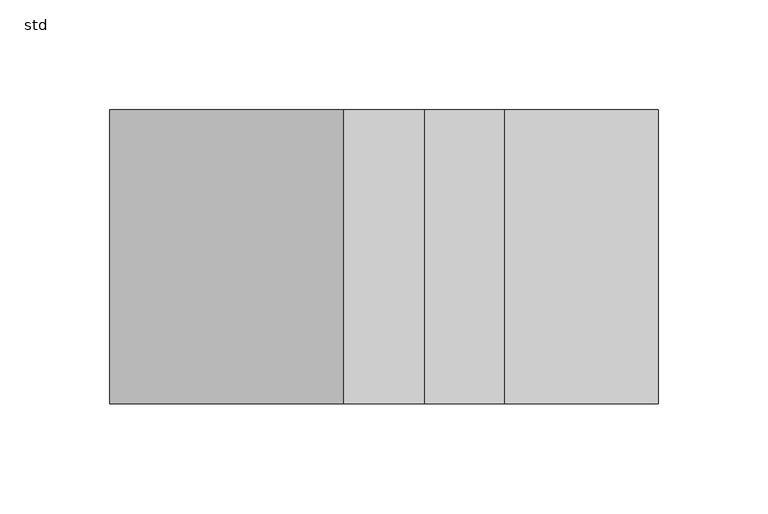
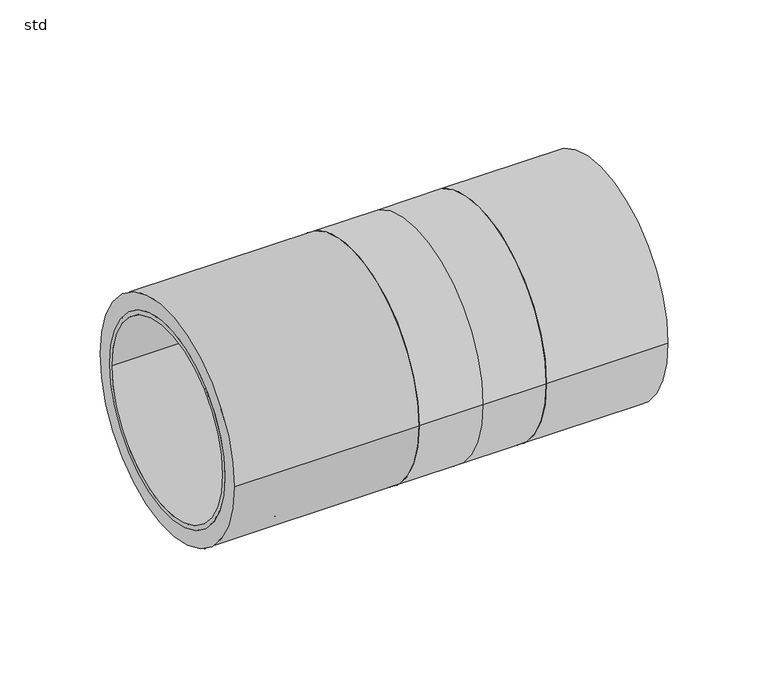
"""IFC4 building model written with IfcOpenShell, lengths in millimetres: pipe fitting geometry, PIF_ST_UN_GM-X compound pipe connection piece (multiport)_ACO : std."""

from ifc_helpers import new_model, si_unit, point, frame, origin, origin_2d, place, context, project, spatial, polyline, circle_curve, trimmed, segment, composite_curve, outline, extrude, source, transform, mapped, element, save
from ifc_brep_helpers import plane_surface, cylinder_surface, revolved_surface, advanced_brep


def std_6e98df58(model_context):
    return source(origin(), model_context, "Body", "SolidModel", [
        extrude(outline(composite_curve([segment(trimmed(circle_curve(origin_2d(), 67.0), [point((-67.0, 0.0))], [point((67.0, 0.0))], False, "CARTESIAN"), True, "CONTINUOUS"), segment(trimmed(circle_curve(origin_2d(), 67.0), [point((67.0, 0.0))], [point((-67.0, 0.0))], False, "CARTESIAN"), True, "CONTINUOUS")], self_intersect=False), holes=[composite_curve([segment(trimmed(circle_curve(origin_2d(), 53.5), [point((-53.5, 0.0))], [point((53.5, 0.0))], True, "CARTESIAN"), True, "CONTINUOUS"), segment(trimmed(circle_curve(origin_2d(), 53.5), [point((53.5, 0.0))], [point((-53.5, 0.0))], True, "CARTESIAN"), True, "CONTINUOUS")], self_intersect=False)]), frame((110.0, 0.0, 0.0), z_axis=(1.0, 0.0, 0.0), x_axis=(0.0, 1.0, 0.0)), (0.0, 0.0, 1.0), 70.0),
        advanced_brep(
        [(180.0, -53.5, 0.0), (180.0, 53.5, 0.0), (180.0, 51.0, 0.0), (180.0, -51.0, 0.0), (110.0, -53.5, 0.0), (110.0, 53.5, 0.0), (110.0, -51.0, 0.0), (110.0, 51.0, 0.0), (147.0, -53.5, 0.0), (147.0, 53.5, 0.0), (118.3, 53.5, 0.0), (118.3, -53.5, 0.0), (147.0, -59.0, 0.0), (147.0, 59.0, 0.0), (118.3, -59.0, 0.0), (118.3, 59.0, 0.0)],
        [
            (0, 1, circle_curve(frame((180.0, 0.0, 0.0), z_axis=(1.0, 0.0, 0.0), x_axis=(0.0, 1.0, 0.0)), 53.5)),
            (1, 0, circle_curve(frame((180.0, 0.0, 0.0), z_axis=(1.0, 0.0, 0.0), x_axis=(0.0, 1.0, 0.0)), 53.5)),
            (2, 3, circle_curve(frame((180.0, 0.0, 0.0), z_axis=(-1.0, 0.0, 0.0), x_axis=(0.0, 1.0, 0.0)), 51.0)),
            (3, 2, circle_curve(frame((180.0, 0.0, 0.0), z_axis=(-1.0, 0.0, 0.0), x_axis=(0.0, 1.0, 0.0)), 51.0)),
            (4, 5, circle_curve(frame((110.0, 0.0, 0.0), z_axis=(-1.0, 0.0, 0.0), x_axis=(0.0, 1.0, 0.0)), 53.5)),
            (5, 4, circle_curve(frame((110.0, 0.0, 0.0), z_axis=(-1.0, 0.0, 0.0), x_axis=(0.0, 1.0, 0.0)), 53.5)),
            (6, 7, circle_curve(frame((110.0, 0.0, 0.0), z_axis=(1.0, 0.0, 0.0), x_axis=(0.0, 1.0, 0.0)), 51.0)),
            (7, 6, circle_curve(frame((110.0, 0.0, 0.0), z_axis=(1.0, 0.0, 0.0), x_axis=(0.0, 1.0, 0.0)), 51.0)),
            (0, 8),
            (8, 9, circle_curve(frame((147.0, 0.0, 0.0), z_axis=(1.0, 0.0, 0.0), x_axis=(0.0, 1.0, 0.0)), 53.5)),
            (9, 1),
            (5, 10),
            (10, 11, circle_curve(frame((118.3, 0.0, 0.0), z_axis=(-1.0, 0.0, 0.0), x_axis=(0.0, 1.0, 0.0)), 53.5)),
            (11, 4),
            (9, 8, circle_curve(frame((147.0, 0.0, 0.0), z_axis=(1.0, 0.0, 0.0), x_axis=(0.0, 1.0, 0.0)), 53.5)),
            (11, 10, circle_curve(frame((118.3, 0.0, 0.0), z_axis=(-1.0, 0.0, 0.0), x_axis=(0.0, 1.0, 0.0)), 53.5)),
            (2, 7),
            (6, 3),
            (12, 13, circle_curve(frame((147.0, 0.0, 0.0), z_axis=(1.0, 0.0, 0.0), x_axis=(0.0, 1.0, 0.0)), 59.0)),
            (13, 12, circle_curve(frame((147.0, 0.0, 0.0), z_axis=(1.0, 0.0, 0.0), x_axis=(0.0, 1.0, 0.0)), 59.0)),
            (14, 15, circle_curve(frame((118.3, 0.0, 0.0), z_axis=(-1.0, 0.0, 0.0), x_axis=(0.0, 1.0, 0.0)), 59.0)),
            (15, 14, circle_curve(frame((118.3, 0.0, 0.0), z_axis=(-1.0, 0.0, 0.0), x_axis=(0.0, 1.0, 0.0)), 59.0)),
            (12, 14),
            (15, 13),
        ],
        [
            plane_surface(frame((180.0, 53.5, 0.0), z_axis=(1.0, 0.0, 0.0), x_axis=(0.0, 0.0, 1.0))),
            plane_surface(frame((110.0, 53.5, 0.0), z_axis=(-1.0, 0.0, 0.0), x_axis=(0.0, 0.0, -1.0))),
            cylinder_surface(frame((110.0, 0.0, 0.0), z_axis=(1.0, 0.0, 0.0), x_axis=(0.0, 1.0, 0.0)), 53.5),
            revolved_surface(polyline([(180.0, 51.0, 0.0), (110.0, 51.0, 0.0)]), (110.0, 0.0, 0.0), (1.0, 0.0, 0.0)),
            plane_surface(frame((147.0, 59.0, 0.0), z_axis=(1.0, 0.0, 0.0), x_axis=(0.0, 0.0, 1.0))),
            plane_surface(frame((118.3, 59.0, 0.0), z_axis=(-1.0, 0.0, 0.0), x_axis=(0.0, 0.0, -1.0))),
            cylinder_surface(frame((118.3, 0.0, 0.0), z_axis=(1.0, 0.0, 0.0), x_axis=(0.0, 1.0, 0.0)), 59.0),
        ],
        [
            (0, [[1, 2], [3, 4]]),
            (1, [[5, 6], [7, 8]]),
            (2, [[-1, 9, 10, 11]]),
            (2, [[-6, 12, 13, 14]]),
            (2, [[-2, -11, 15, -9]]),
            (2, [[-5, -14, 16, -12]]),
            (3, [[17, -7, 18, -3]]),
            (3, [[-17, -4, -18, -8]]),
            (4, [[19, 20], [-10, -15]]),
            (5, [[21, 22], [-13, -16]]),
            (6, [[-19, 23, -22, 24]]),
            (6, [[-20, -24, -21, -23]]),
        ],
    ),
        advanced_brep(
        [(-61.7, -63.0, 0.0), (-61.7, 63.0, 0.0), (-33.0, 63.0, 0.0), (-33.0, -63.0, 0.0), (-70.0, 57.5, 0.0), (-70.0, -57.5, 0.0), (-70.0, -55.0, 0.0), (-70.0, 55.0, 0.0), (0.0, 57.5, 0.0), (0.0, -57.5, 0.0), (0.0, 55.0, 0.0), (0.0, -55.0, 0.0), (-61.7, 57.5, 0.0), (-61.7, -57.5, 0.0), (-33.0, -57.5, 0.0), (-33.0, 57.5, 0.0)],
        [
            (0, 1, circle_curve(frame((-61.7, 0.0, 0.0), z_axis=(1.0, 0.0, 0.0), x_axis=(0.0, -1.0, 0.0)), 63.0)),
            (1, 2),
            (2, 3, circle_curve(frame((-33.0, 0.0, 0.0), z_axis=(-1.0, 0.0, 0.0), x_axis=(0.0, -1.0, 0.0)), 63.0)),
            (3, 0),
            (1, 0, circle_curve(frame((-61.7, 0.0, 0.0), z_axis=(1.0, 0.0, 0.0), x_axis=(0.0, -1.0, 0.0)), 63.0)),
            (3, 2, circle_curve(frame((-33.0, 0.0, 0.0), z_axis=(-1.0, 0.0, 0.0), x_axis=(0.0, -1.0, 0.0)), 63.0)),
            (4, 5, circle_curve(frame((-70.0, 0.0, 0.0), z_axis=(-1.0, 0.0, 0.0), x_axis=(0.0, -1.0, 0.0)), 57.5)),
            (5, 4, circle_curve(frame((-70.0, 0.0, 0.0), z_axis=(-1.0, 0.0, 0.0), x_axis=(0.0, -1.0, 0.0)), 57.5)),
            (6, 7, circle_curve(frame((-70.0, 0.0, 0.0), z_axis=(1.0, 0.0, 0.0), x_axis=(0.0, -1.0, 0.0)), 55.0)),
            (7, 6, circle_curve(frame((-70.0, 0.0, 0.0), z_axis=(1.0, 0.0, 0.0), x_axis=(0.0, -1.0, 0.0)), 55.0)),
            (8, 9, circle_curve(frame((0.0, 0.0, 0.0), z_axis=(1.0, 0.0, 0.0), x_axis=(0.0, -1.0, 0.0)), 57.5)),
            (9, 8, circle_curve(frame((0.0, 0.0, 0.0), z_axis=(1.0, 0.0, 0.0), x_axis=(0.0, -1.0, 0.0)), 57.5)),
            (10, 11, circle_curve(frame((0.0, 0.0, 0.0), z_axis=(-1.0, 0.0, 0.0), x_axis=(0.0, -1.0, 0.0)), 55.0)),
            (11, 10, circle_curve(frame((0.0, 0.0, 0.0), z_axis=(-1.0, 0.0, 0.0), x_axis=(0.0, -1.0, 0.0)), 55.0)),
            (4, 12),
            (12, 13, circle_curve(frame((-61.7, 0.0, 0.0), z_axis=(-1.0, 0.0, 0.0), x_axis=(0.0, -1.0, 0.0)), 57.5)),
            (13, 5),
            (9, 14),
            (14, 15, circle_curve(frame((-33.0, 0.0, 0.0), z_axis=(1.0, 0.0, 0.0), x_axis=(0.0, -1.0, 0.0)), 57.5)),
            (15, 8),
            (13, 12, circle_curve(frame((-61.7, 0.0, 0.0), z_axis=(-1.0, 0.0, 0.0), x_axis=(0.0, -1.0, 0.0)), 57.5)),
            (15, 14, circle_curve(frame((-33.0, 0.0, 0.0), z_axis=(1.0, 0.0, 0.0), x_axis=(0.0, -1.0, 0.0)), 57.5)),
            (6, 11),
            (10, 7),
        ],
        [
            cylinder_surface(frame((-33.0, 0.0, 0.0), z_axis=(-1.0, 0.0, 0.0), x_axis=(0.0, -1.0, 0.0)), 63.0),
            plane_surface(frame((-70.0, -57.5, 0.0), z_axis=(-1.0, 0.0, 0.0), x_axis=(0.0, 0.0, 1.0))),
            plane_surface(frame((0.0, -57.5, 0.0), z_axis=(1.0, 0.0, 0.0), x_axis=(0.0, 0.0, -1.0))),
            cylinder_surface(frame((0.0, 0.0, 0.0), z_axis=(-1.0, 0.0, 0.0), x_axis=(0.0, -1.0, 0.0)), 57.5),
            revolved_surface(polyline([(-70.0, -55.0, 0.0), (0.0, -55.0, 0.0)]), (0.0, 0.0, 0.0), (-1.0, 0.0, 0.0)),
            plane_surface(frame((-61.7, -63.0, 0.0), z_axis=(-1.0, 0.0, 0.0), x_axis=(0.0, 0.0, 1.0))),
            plane_surface(frame((-33.0, -63.0, 0.0), z_axis=(1.0, 0.0, 0.0), x_axis=(0.0, 0.0, -1.0))),
        ],
        [
            (0, [[1, 2, 3, 4]]),
            (0, [[5, -4, 6, -2]]),
            (1, [[7, 8], [9, 10]]),
            (2, [[11, 12], [13, 14]]),
            (3, [[-7, 15, 16, 17]]),
            (3, [[-12, 18, 19, 20]]),
            (3, [[-8, -17, 21, -15]]),
            (3, [[-11, -20, 22, -18]]),
            (4, [[23, -13, 24, -9]]),
            (4, [[-23, -10, -24, -14]]),
            (5, [[-1, -5], [-16, -21]]),
            (6, [[-6, -3], [-19, -22]]),
        ],
    ),
        advanced_brep(
        [(36.6666667, -67.0, 0.0), (36.6666667, 67.0, 0.0), (73.3333333, 67.0, 0.0), (73.3333333, -67.0, 0.0), (110.0, 67.0, 0.0), (110.0, -67.0, 0.0)],
        [
            (0, 1, circle_curve(frame((36.6666667, 0.0, 0.0), z_axis=(-1.0, 0.0, 0.0), x_axis=(0.0, 0.0, 1.0)), 67.0)),
            (1, 0, circle_curve(frame((36.6666667, 0.0, 0.0), z_axis=(-1.0, 0.0, 0.0), x_axis=(0.0, 0.0, -1.0)), 67.0)),
            (1, 2),
            (2, 3, circle_curve(frame((73.3333333, 0.0, 0.0), z_axis=(-1.0, 0.0, 0.0), x_axis=(0.0, 0.0, -1.0)), 67.0)),
            (3, 0),
            (3, 2, circle_curve(frame((73.3333333, 0.0, 0.0), z_axis=(-1.0, 0.0, 0.0), x_axis=(0.0, 0.0, 1.0)), 67.0)),
            (4, 5, circle_curve(frame((110.0, 0.0, 0.0), z_axis=(1.0, 0.0, 0.0), x_axis=(0.0, -1.0, 0.0)), 67.0)),
            (5, 4, circle_curve(frame((110.0, 0.0, 0.0), z_axis=(1.0, 0.0, 0.0), x_axis=(0.0, -1.0, 0.0)), 67.0)),
            (4, 2),
            (3, 5),
        ],
        [
            plane_surface(frame((36.6666667, 0.0, 0.0), z_axis=(-1.0, 0.0, 0.0), x_axis=(0.0, 0.0, -1.0))),
            cylinder_surface(frame((36.6666667, 0.0, 0.0), z_axis=(1.0, 0.0, 0.0), x_axis=(0.0, 0.0, -1.0)), 67.0),
            cylinder_surface(frame((36.6666667, 0.0, 0.0), z_axis=(1.0, 0.0, 0.0), x_axis=(0.0, 0.0, 1.0)), 67.0),
            plane_surface(frame((110.0, -67.0, 0.0), z_axis=(1.0, 0.0, 0.0), x_axis=(0.0, 0.0, -1.0))),
            cylinder_surface(frame((73.3333333, 0.0, 0.0), z_axis=(1.0, 0.0, 0.0), x_axis=(0.0, -1.0, 0.0)), 67.0),
        ],
        [
            (0, [[1, 2]]),
            (1, [[-2, 3, 4, 5]]),
            (2, [[-1, -5, 6, -3]]),
            (3, [[7, 8]]),
            (4, [[-7, 9, -6, 10]]),
            (4, [[-8, -10, -4, -9]]),
        ],
    ),
        advanced_brep(
        [(-70.0, -67.0, 0.0), (-70.0, 67.0, 0.0), (-70.0, 57.0, 0.0), (-70.0, -57.0, 0.0), (36.6666667, -67.0, 0.0), (36.6666667, 67.0, 0.0), (0.0, -57.0, 0.0), (0.0, 57.0, 0.0)],
        [
            (0, 1, circle_curve(frame((-70.0, 0.0, 0.0), z_axis=(-1.0, 0.0, 0.0), x_axis=(0.0, 1.0, 0.0)), 67.0)),
            (1, 0, circle_curve(frame((-70.0, 0.0, 0.0), z_axis=(-1.0, 0.0, 0.0), x_axis=(0.0, 1.0, 0.0)), 67.0)),
            (2, 3, circle_curve(frame((-70.0, 0.0, 0.0), z_axis=(1.0, 0.0, 0.0), x_axis=(0.0, 1.0, 0.0)), 57.0)),
            (3, 2, circle_curve(frame((-70.0, 0.0, 0.0), z_axis=(1.0, 0.0, 0.0), x_axis=(0.0, 1.0, 0.0)), 57.0)),
            (4, 5, circle_curve(frame((36.6666667, 0.0, 0.0), z_axis=(1.0, 0.0, 0.0), x_axis=(0.0, 1.0, 0.0)), 67.0)),
            (5, 4, circle_curve(frame((36.6666667, 0.0, 0.0), z_axis=(1.0, 0.0, 0.0), x_axis=(0.0, 1.0, 0.0)), 67.0)),
            (0, 4),
            (5, 1),
            (6, 7, circle_curve(frame((0.0, 0.0, 0.0), z_axis=(-1.0, 0.0, 0.0), x_axis=(0.0, 1.0, 0.0)), 57.0)),
            (7, 6, circle_curve(frame((0.0, 0.0, 0.0), z_axis=(-1.0, 0.0, 0.0), x_axis=(0.0, 1.0, 0.0)), 57.0)),
            (6, 3),
            (2, 7),
        ],
        [
            plane_surface(frame((-70.0, 67.0, 0.0), z_axis=(-1.0, 0.0, 0.0), x_axis=(0.0, 0.0, -1.0))),
            plane_surface(frame((36.6666667, 67.0, 0.0), z_axis=(1.0, 0.0, 0.0), x_axis=(0.0, 0.0, 1.0))),
            cylinder_surface(frame((36.6666667, 0.0, 0.0), z_axis=(-1.0, 0.0, 0.0), x_axis=(0.0, 1.0, 0.0)), 67.0),
            plane_surface(frame((0.0, 57.0, 0.0), z_axis=(-1.0, 0.0, 0.0), x_axis=(0.0, 0.0, 1.0))),
            revolved_surface(polyline([(-70.0, 57.0, 0.0), (0.0, 57.0, 0.0)]), (0.0, 0.0, 0.0), (-1.0, 0.0, 0.0)),
        ],
        [
            (0, [[1, 2], [3, 4]]),
            (1, [[5, 6]]),
            (2, [[-1, 7, -6, 8]]),
            (2, [[-2, -8, -5, -7]]),
            (3, [[9, 10]]),
            (4, [[-9, 11, -3, 12]]),
            (4, [[-10, -12, -4, -11]]),
        ],
    ),
        extrude(outline(composite_curve([segment(trimmed(circle_curve(origin_2d(), 51.0), [point((51.0, 0.0))], [point((-51.0, 0.0))], False, "CARTESIAN"), True, "CONTINUOUS"), segment(trimmed(circle_curve(origin_2d(), 51.0), [point((-51.0, 0.0))], [point((51.0, 0.0))], False, "CARTESIAN"), True, "CONTINUOUS")], self_intersect=False)), frame((110.0, 0.0, 0.0), z_axis=(1.0, 0.0, 0.0), x_axis=(0.0, 1.0, 0.0)), (0.0, 0.0, 1.0), 70.0),
    ])


if __name__ == "__main__":
    model = new_model("IFC4")
    model_context = context("Model", 3, world=origin())
    ifc_project = project(units=[si_unit("LENGTHUNIT", "METRE", prefix="MILLI")], contexts=[model_context])
    site = spatial("IfcSite", under=ifc_project)
    building = spatial("IfcBuilding", under=site)
    placement = place(None, origin())
    std_shape = std_6e98df58(model_context)
    element("IfcPipeFitting", 1, ObjectType="PIF_ST_UN_GM-X compound pipe connection piece (multiport)_ACO : std", at=placement, inside=building, context=model_context, shape_type="MappedRepresentation", body=[
        mapped(std_shape, transform((0.0, 0.0, 0.0), x_axis=(1.0, 0.0, 0.0), y_axis=(0.0, 1.0, 0.0), z_axis=(0.0, 0.0, 1.0))),
    ])
    save(model, "model.ifc")
